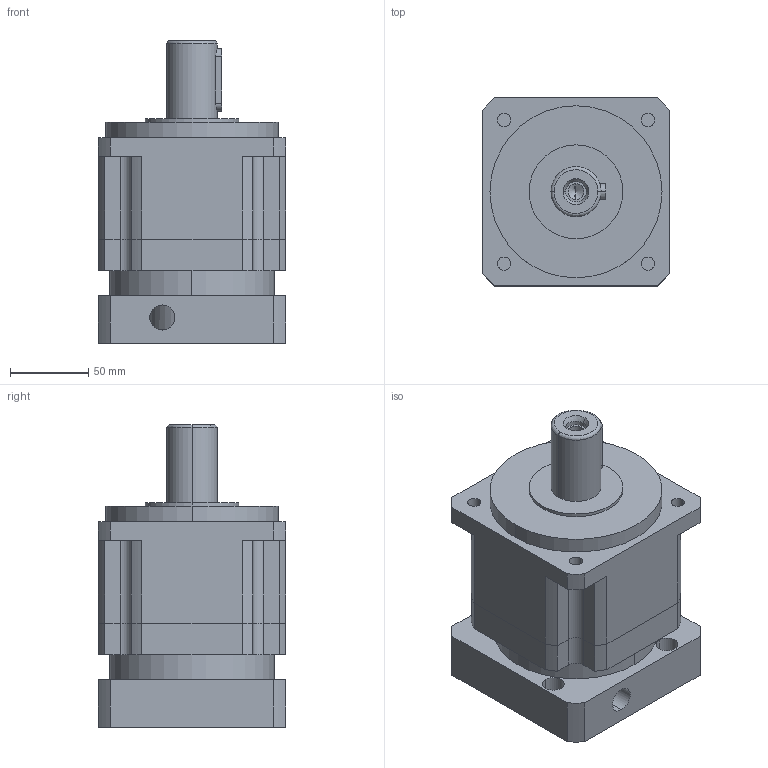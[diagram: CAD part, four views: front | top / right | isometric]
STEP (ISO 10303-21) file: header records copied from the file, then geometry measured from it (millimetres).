
FILE_DESCRIPTION (( 'STEP AP203' ), '1' );
FILE_NAME ('PAG120-L1-19-55.5-125.9.STEP', '2023-06-09T01:16:06', ( 'Windows User' ), ( 'P R C' ), 'SwSTEP 2.0', 'SolidWorks 2016', '' );
FILE_SCHEMA (( 'CONFIG_CONTROL_DESIGN' ));
Length unit declared in the file: millimetre
Products named in the file (7): PAG120-本体齿圈; PAG120-薊粣ん-19_LZ03; PAG120-蟀諉-55.5-M8-125.9-LR60; 囀鞠褒蹟佪-M8℅25; 邧埴瑩 10x8x40; 粣創-6009 45x75x16; PAG120-L1-19-55.5-125.9
Assembly tree (6 placements, depth 2):
  PAG120-L1-19-55.5-125.9
    PAG120-本体齿圈
    PAG120-薊粣ん-19_LZ03
    PAG120-蟀諉-55.5-M8-125.9-LR60
    囀鞠褒蹟佪-M8℅25
    邧埴瑩 10x8x40
    粣創-6009 45x75x16
Bounding box: 120 x 120 x 193.5 mm (x, y, z)
Volume: 1638266.4 mm3; surface area: 213381.1 mm2
Topology: 6 solids, 6 shells, 1029 faces, 2818 edges, 1858 vertices
Faces by surface type: plane 554, bspline 306, cylinder 153, cone 16
Entity records: 45417 total; most frequent: CARTESIAN_POINT 20479, ORIENTED_EDGE 5608, DIRECTION 4042, EDGE_CURVE 2804, VERTEX_POINT 1854, VECTOR 1608, LINE 1608, AXIS2_PLACEMENT_3D 1217
